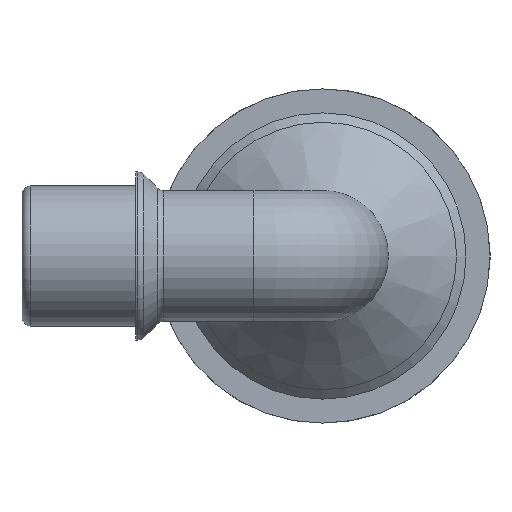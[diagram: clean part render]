
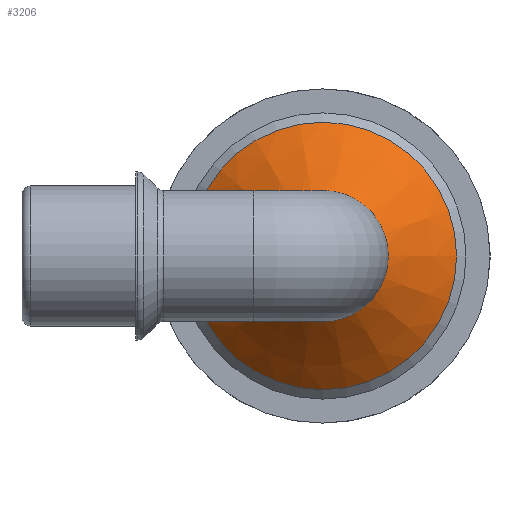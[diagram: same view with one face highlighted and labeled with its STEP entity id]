
A CAD part, left-side view. The second image highlights one B-rep face of the part: STEP entity #3206.
In plain terms, the highlighted conical face has half-angle 45 degrees and reference radius 14.898 mm.
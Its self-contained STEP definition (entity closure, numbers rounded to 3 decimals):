
#22=CONICAL_SURFACE('',#3589,14.898,45.);
#639=FACE_BOUND('',#1077,.T.);
#851=FACE_OUTER_BOUND('',#1076,.T.);
#1076=EDGE_LOOP('',(#2918));
#1077=EDGE_LOOP('',(#2919));
#1105=CIRCLE('',#3227,9.796);
#1271=CIRCLE('',#3590,20.);
#1285=VERTEX_POINT('',#4589);
#1547=VERTEX_POINT('',#6088);
#1561=EDGE_CURVE('',#1285,#1285,#1105,.T.);
#2009=EDGE_CURVE('',#1547,#1547,#1271,.T.);
#2918=ORIENTED_EDGE('',*,*,#2009,.F.);
#2919=ORIENTED_EDGE('',*,*,#1561,.T.);
#3206=ADVANCED_FACE('',(#851,#639),#22,.T.);
#3227=AXIS2_PLACEMENT_3D('',#4590,#3627,#3628);
#3589=AXIS2_PLACEMENT_3D('',#6087,#4531,#4532);
#3590=AXIS2_PLACEMENT_3D('',#6089,#4533,#4534);
#3627=DIRECTION('center_axis',(1.,0.,0.));
#3628=DIRECTION('ref_axis',(0.,0.,-1.));
#4531=DIRECTION('center_axis',(1.,0.,0.));
#4532=DIRECTION('ref_axis',(0.,1.,0.));
#4533=DIRECTION('center_axis',(1.,0.,0.));
#4534=DIRECTION('ref_axis',(0.,0.,-1.));
#4589=CARTESIAN_POINT('',(10.3,9.796,0.));
#4590=CARTESIAN_POINT('Origin',(10.3,0.,0.));
#6087=CARTESIAN_POINT('Origin',(15.402,0.,0.));
#6088=CARTESIAN_POINT('',(20.504,20.,0.));
#6089=CARTESIAN_POINT('Origin',(20.504,0.,0.));
